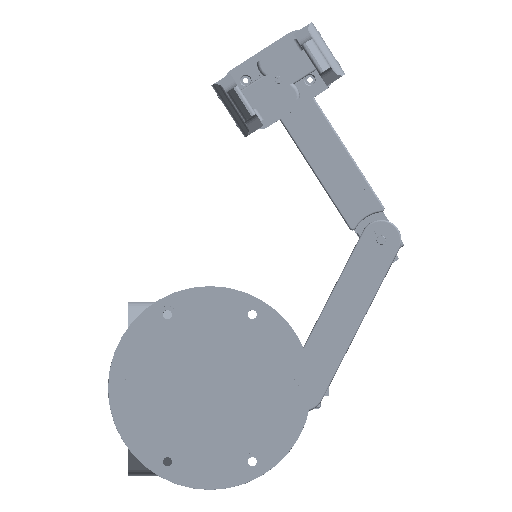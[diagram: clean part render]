
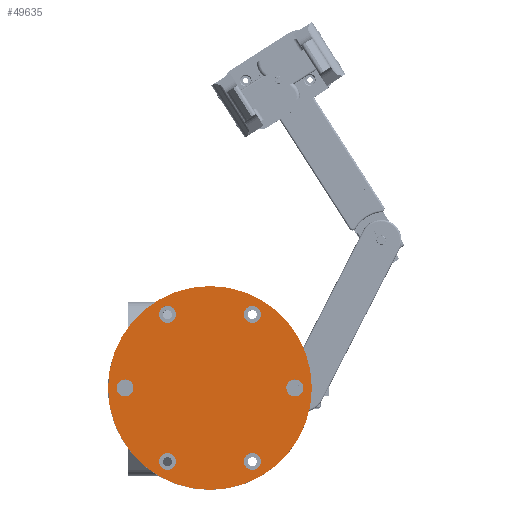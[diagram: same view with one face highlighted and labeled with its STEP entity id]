
A CAD part, top view. The second image highlights one B-rep face of the part: STEP entity #49635.
In plain terms, the highlighted planar face has unit normal (0, 0, 1).
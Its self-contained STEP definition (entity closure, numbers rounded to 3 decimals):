
#2804=FACE_BOUND('',#8646,.T.);
#2805=FACE_BOUND('',#8647,.T.);
#2806=FACE_BOUND('',#8648,.T.);
#2807=FACE_BOUND('',#8649,.T.);
#2808=FACE_BOUND('',#8650,.T.);
#2809=FACE_BOUND('',#8651,.T.);
#3792=PLANE('',#54546);
#5681=FACE_OUTER_BOUND('',#8645,.T.);
#8645=EDGE_LOOP('',(#38583));
#8646=EDGE_LOOP('',(#38584));
#8647=EDGE_LOOP('',(#38585));
#8648=EDGE_LOOP('',(#38586));
#8649=EDGE_LOOP('',(#38587));
#8650=EDGE_LOOP('',(#38588));
#8651=EDGE_LOOP('',(#38589));
#20217=CIRCLE('',#54505,5.);
#20221=CIRCLE('',#54512,5.);
#20225=CIRCLE('',#54519,5.);
#20229=CIRCLE('',#54526,5.);
#20233=CIRCLE('',#54533,5.);
#20237=CIRCLE('',#54540,5.);
#20239=CIRCLE('',#54544,60.);
#22974=VERTEX_POINT('',#76362);
#22978=VERTEX_POINT('',#76375);
#22982=VERTEX_POINT('',#76388);
#22986=VERTEX_POINT('',#76401);
#22990=VERTEX_POINT('',#76414);
#22994=VERTEX_POINT('',#76427);
#22996=VERTEX_POINT('',#76435);
#28712=EDGE_CURVE('',#22974,#22974,#20217,.T.);
#28718=EDGE_CURVE('',#22978,#22978,#20221,.T.);
#28724=EDGE_CURVE('',#22982,#22982,#20225,.T.);
#28730=EDGE_CURVE('',#22986,#22986,#20229,.T.);
#28736=EDGE_CURVE('',#22990,#22990,#20233,.T.);
#28742=EDGE_CURVE('',#22994,#22994,#20237,.T.);
#28745=EDGE_CURVE('',#22996,#22996,#20239,.T.);
#38583=ORIENTED_EDGE('',*,*,#28745,.T.);
#38584=ORIENTED_EDGE('',*,*,#28712,.T.);
#38585=ORIENTED_EDGE('',*,*,#28718,.T.);
#38586=ORIENTED_EDGE('',*,*,#28724,.T.);
#38587=ORIENTED_EDGE('',*,*,#28730,.T.);
#38588=ORIENTED_EDGE('',*,*,#28736,.T.);
#38589=ORIENTED_EDGE('',*,*,#28742,.T.);
#49635=ADVANCED_FACE('',(#5681,#2804,#2805,#2806,#2807,#2808,#2809),#3792,
 .T.);
#54505=AXIS2_PLACEMENT_3D('',#76364,#62449,#62450);
#54512=AXIS2_PLACEMENT_3D('',#76377,#62465,#62466);
#54519=AXIS2_PLACEMENT_3D('',#76390,#62481,#62482);
#54526=AXIS2_PLACEMENT_3D('',#76403,#62497,#62498);
#54533=AXIS2_PLACEMENT_3D('',#76416,#62513,#62514);
#54540=AXIS2_PLACEMENT_3D('',#76429,#62529,#62530);
#54544=AXIS2_PLACEMENT_3D('',#76436,#62538,#62539);
#54546=AXIS2_PLACEMENT_3D('',#76440,#62543,#62544);
#62449=DIRECTION('center_axis',(0.,0.,-1.));
#62450=DIRECTION('ref_axis',(1.,0.,0.));
#62465=DIRECTION('center_axis',(0.,0.,-1.));
#62466=DIRECTION('ref_axis',(1.,0.,0.));
#62481=DIRECTION('center_axis',(0.,0.,-1.));
#62482=DIRECTION('ref_axis',(1.,0.,0.));
#62497=DIRECTION('center_axis',(0.,0.,-1.));
#62498=DIRECTION('ref_axis',(1.,0.,0.));
#62513=DIRECTION('center_axis',(0.,0.,-1.));
#62514=DIRECTION('ref_axis',(1.,0.,0.));
#62529=DIRECTION('center_axis',(0.,0.,-1.));
#62530=DIRECTION('ref_axis',(1.,0.,0.));
#62538=DIRECTION('center_axis',(0.,0.,1.));
#62539=DIRECTION('ref_axis',(1.,0.,0.));
#62543=DIRECTION('center_axis',(0.,0.,1.));
#62544=DIRECTION('ref_axis',(1.,0.,0.));
#76362=CARTESIAN_POINT('',(-55.,0.,30.));
#76364=CARTESIAN_POINT('Origin',(-50.,0.,
30.));
#76375=CARTESIAN_POINT('',(-30.,43.301,30.));
#76377=CARTESIAN_POINT('Origin',(-25.,43.301,30.));
#76388=CARTESIAN_POINT('',(20.,43.301,30.));
#76390=CARTESIAN_POINT('Origin',(25.,43.301,30.));
#76401=CARTESIAN_POINT('',(45.,0.,30.));
#76403=CARTESIAN_POINT('Origin',(50.,0.,30.));
#76414=CARTESIAN_POINT('',(-30.,-43.301,30.));
#76416=CARTESIAN_POINT('Origin',(-25.,-43.301,30.));
#76427=CARTESIAN_POINT('',(20.,-43.301,30.));
#76429=CARTESIAN_POINT('Origin',(25.,-43.301,30.));
#76435=CARTESIAN_POINT('',(-60.,0.,30.));
#76436=CARTESIAN_POINT('Origin',(0.,0.,
30.));
#76440=CARTESIAN_POINT('Origin',(0.,0.,
30.));
